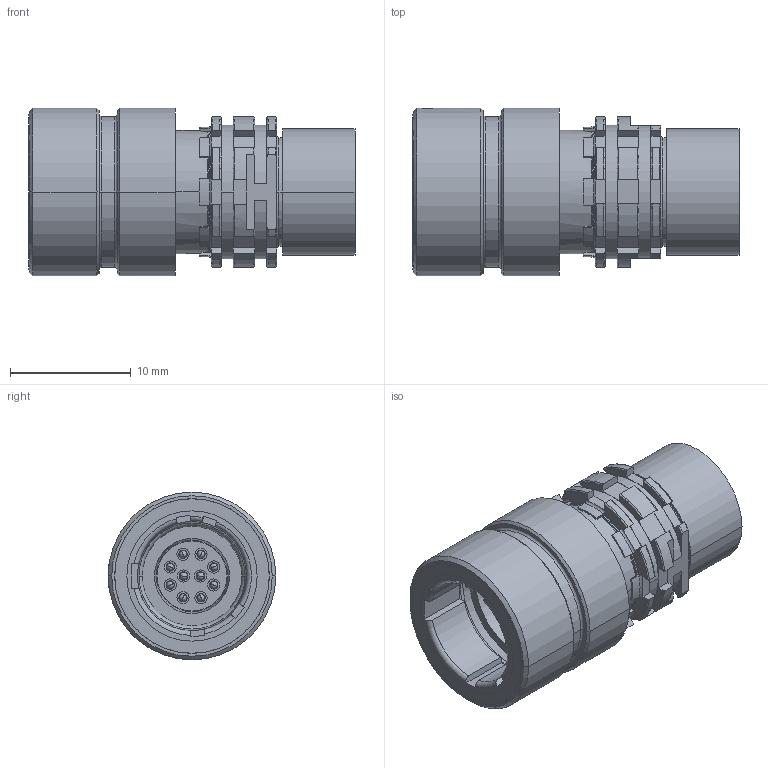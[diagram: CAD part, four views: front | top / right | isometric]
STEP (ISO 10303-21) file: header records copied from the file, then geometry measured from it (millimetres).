
FILE_DESCRIPTION((''),'2;1');
FILE_NAME('00050763-A_ASM','2020-10-27T07:59:18',('EUnterhaslberger'),(''),'CREO PARAMETRIC BY PTC INC, 2018300','CREO PARAMETRIC BY PTC INC, 2018300','');
FILE_SCHEMA(('AP242_MANAGED_MODEL_BASED_3D_ENGINEERING_MIM_LF { 1 0 10303 442 1 1 4 }'));
Length unit declared in the file: millimetre
Products named in the file (5): TEMP_SW_STEP_MONOBLOCK_1_1; TEMP_SW_STEP_MONOBLOCK_1_2; TEMP_SW_STEP_MONOBLOCK_1_3; TEMP_SW_STEP_MONOBLOCK_1_ASM; 00050763-A_ASM
Assembly tree (4 placements, depth 3):
  00050763-A_ASM
    TEMP_SW_STEP_MONOBLOCK_1_ASM
      TEMP_SW_STEP_MONOBLOCK_1_1
      TEMP_SW_STEP_MONOBLOCK_1_2
      TEMP_SW_STEP_MONOBLOCK_1_3
Bounding box: 27.01 x 13.9 x 13.9 mm (x, y, z)
Volume: 2135.8 mm3; surface area: 2965.9 mm2
Topology: 3 solids, 3 shells, 630 faces, 1707 edges, 1084 vertices
Faces by surface type: cylinder 201, plane 200, torus 115, cone 92, sphere 22
Entity records: 25921 total; most frequent: CARTESIAN_POINT 5406, DIRECTION 3389, ORIENTED_EDGE 3330, EDGE_CURVE 1665, AXIS2_PLACEMENT_3D 1380, VERTEX_POINT 1084, CIRCLE 738, EDGE_LOOP 693
